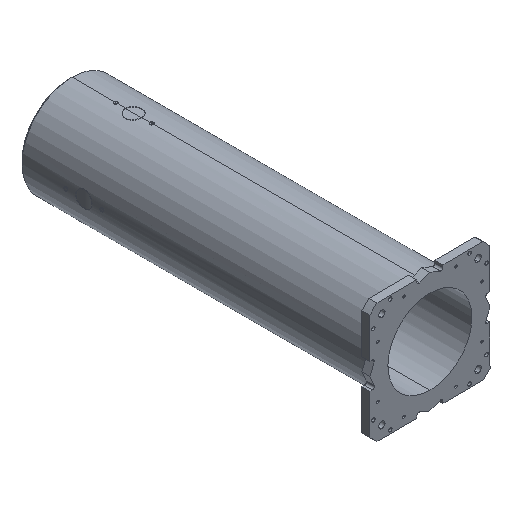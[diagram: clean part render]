
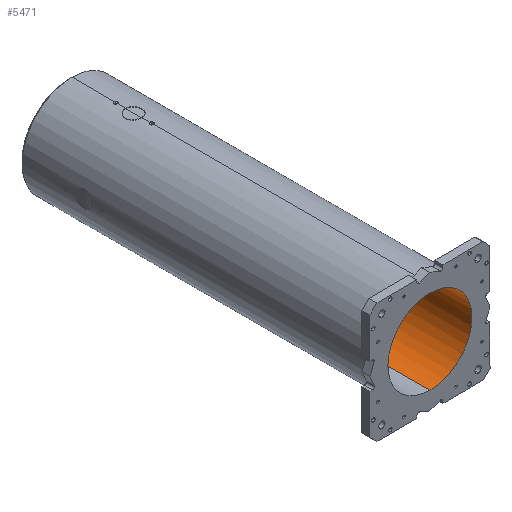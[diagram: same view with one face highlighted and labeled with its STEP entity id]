
A CAD part, isometric view. The second image highlights one B-rep face of the part: STEP entity #5471.
In plain terms, the highlighted cylindrical face has radius 105 mm (diameter 210 mm), a partial arc.
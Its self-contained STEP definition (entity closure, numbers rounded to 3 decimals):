
#7 = VERTEX_POINT ( 'NONE', #14194 ) ;
#49 = CIRCLE ( 'NONE', #4785, 105. ) ;
#255 = CARTESIAN_POINT ( 'NONE',  ( 0., 882., 0. ) ) ;
#354 = EDGE_CURVE ( 'NONE', #7, #5901, #369, .T. ) ;
#369 = CIRCLE ( 'NONE', #15688, 105. ) ;
#378 = DIRECTION ( 'NONE',  ( 0., 1., 0. ) ) ;
#693 = VECTOR ( 'NONE', #6294, 1000. ) ;
#1153 = CARTESIAN_POINT ( 'NONE',  ( 0., 0., 0. ) ) ;
#1182 = AXIS2_PLACEMENT_3D ( 'NONE', #255, #3972, #15222 ) ;
#1238 = DIRECTION ( 'NONE',  ( 0., 1., 0. ) ) ;
#1327 = ORIENTED_EDGE ( 'NONE', *, *, #3336, .T. ) ;
#1395 = DIRECTION ( 'NONE',  ( 0., 1., 0. ) ) ;
#1400 = CIRCLE ( 'NONE', #14872, 105. ) ;
#1470 = ORIENTED_EDGE ( 'NONE', *, *, #6699, .T. ) ;
#1477 = CARTESIAN_POINT ( 'NONE',  ( 71.94, 882., -76.483 ) ) ;
#1581 = AXIS2_PLACEMENT_3D ( 'NONE', #2534, #14025, #6394 ) ;
#1610 = CARTESIAN_POINT ( 'NONE',  ( 0., 882., 0. ) ) ;
#1723 = EDGE_LOOP ( 'NONE', ( #10838, #8387, #10303, #4356, #1470, #1327, #6968, #5443, #15554, #14204, #3822, #6969 ) ) ;
#2033 = CARTESIAN_POINT ( 'NONE',  ( 76.483, 882., 71.94 ) ) ;
#2534 = CARTESIAN_POINT ( 'NONE',  ( 0., 882., 0. ) ) ;
#2574 = CARTESIAN_POINT ( 'NONE',  ( 0., 0., -105. ) ) ;
#2854 = DIRECTION ( 'NONE',  ( 0., 1., 0. ) ) ;
#2875 = EDGE_CURVE ( 'NONE', #8486, #5762, #12626, .T. ) ;
#3157 = EDGE_CURVE ( 'NONE', #6537, #15801, #13925, .T. ) ;
#3336 = EDGE_CURVE ( 'NONE', #15551, #7, #14902, .T. ) ;
#3564 = CARTESIAN_POINT ( 'NONE',  ( 0., 882., 0. ) ) ;
#3759 = EDGE_CURVE ( 'NONE', #15532, #5762, #7517, .T. ) ;
#3782 = EDGE_CURVE ( 'NONE', #11283, #9463, #11177, .T. ) ;
#3822 = ORIENTED_EDGE ( 'NONE', *, *, #9217, .T. ) ;
#3879 = DIRECTION ( 'NONE',  ( 0., 0., 1. ) ) ;
#3972 = DIRECTION ( 'NONE',  ( 0., 1., 0. ) ) ;
#4295 = CARTESIAN_POINT ( 'NONE',  ( 0., 882., 0. ) ) ;
#4356 = ORIENTED_EDGE ( 'NONE', *, *, #10529, .T. ) ;
#4759 = AXIS2_PLACEMENT_3D ( 'NONE', #1153, #1395, #8816 ) ;
#4785 = AXIS2_PLACEMENT_3D ( 'NONE', #10360, #378, #7873 ) ;
#5252 = CIRCLE ( 'NONE', #14526, 105. ) ;
#5334 = VERTEX_POINT ( 'NONE', #13334 ) ;
#5365 = DIRECTION ( 'NONE',  ( 0., 0., 1. ) ) ;
#5443 = ORIENTED_EDGE ( 'NONE', *, *, #13720, .T. ) ;
#5471 = ADVANCED_FACE ( 'NONE', ( #5931 ), #12879, .F. ) ;
#5576 = AXIS2_PLACEMENT_3D ( 'NONE', #9333, #11827, #5365 ) ;
#5762 = VERTEX_POINT ( 'NONE', #12367 ) ;
#5800 = DIRECTION ( 'NONE',  ( 0., 0., 1. ) ) ;
#5901 = VERTEX_POINT ( 'NONE', #15706 ) ;
#5931 = FACE_OUTER_BOUND ( 'NONE', #1723, .T. ) ;
#5947 = DIRECTION ( 'NONE',  ( 0., 1., 0. ) ) ;
#6294 = DIRECTION ( 'NONE',  ( 0., 1., 0. ) ) ;
#6394 = DIRECTION ( 'NONE',  ( 0., 0., 1. ) ) ;
#6537 = VERTEX_POINT ( 'NONE', #14906 ) ;
#6699 = EDGE_CURVE ( 'NONE', #5334, #15551, #11373, .T. ) ;
#6725 = VECTOR ( 'NONE', #15475, 1000. ) ;
#6968 = ORIENTED_EDGE ( 'NONE', *, *, #354, .T. ) ;
#6969 = ORIENTED_EDGE ( 'NONE', *, *, #2875, .T. ) ;
#7190 = CARTESIAN_POINT ( 'NONE',  ( 76.483, 882., -71.94 ) ) ;
#7338 = CARTESIAN_POINT ( 'NONE',  ( 0., 882., 0. ) ) ;
#7344 = DIRECTION ( 'NONE',  ( 0., 1., 0. ) ) ;
#7517 = LINE ( 'NONE', #2574, #6725 ) ;
#7656 = CIRCLE ( 'NONE', #4759, 105. ) ;
#7662 = DIRECTION ( 'NONE',  ( 0., 1., 0. ) ) ;
#7768 = DIRECTION ( 'NONE',  ( 0., 1., 0. ) ) ;
#7772 = EDGE_CURVE ( 'NONE', #6537, #15532, #7656, .T. ) ;
#7873 = DIRECTION ( 'NONE',  ( 0., 0., 1. ) ) ;
#7905 = CIRCLE ( 'NONE', #1581, 105. ) ;
#8387 = ORIENTED_EDGE ( 'NONE', *, *, #7772, .F. ) ;
#8486 = VERTEX_POINT ( 'NONE', #1477 ) ;
#8784 = CARTESIAN_POINT ( 'NONE',  ( 0., 0., 105. ) ) ;
#8816 = DIRECTION ( 'NONE',  ( 0., 0., 1. ) ) ;
#9140 = AXIS2_PLACEMENT_3D ( 'NONE', #10486, #7662, #3879 ) ;
#9217 = EDGE_CURVE ( 'NONE', #9463, #8486, #49, .T. ) ;
#9333 = CARTESIAN_POINT ( 'NONE',  ( 0., 882., 0. ) ) ;
#9463 = VERTEX_POINT ( 'NONE', #7190 ) ;
#10027 = CARTESIAN_POINT ( 'NONE',  ( 0., 0., -105. ) ) ;
#10303 = ORIENTED_EDGE ( 'NONE', *, *, #3157, .T. ) ;
#10360 = CARTESIAN_POINT ( 'NONE',  ( 0., 882., 0. ) ) ;
#10486 = CARTESIAN_POINT ( 'NONE',  ( 0., 0., 0. ) ) ;
#10529 = EDGE_CURVE ( 'NONE', #15801, #5334, #1400, .T. ) ;
#10610 = CARTESIAN_POINT ( 'NONE',  ( 71.94, 882., 76.483 ) ) ;
#10838 = ORIENTED_EDGE ( 'NONE', *, *, #3759, .F. ) ;
#11144 = DIRECTION ( 'NONE',  ( 0., 0., 1. ) ) ;
#11177 = CIRCLE ( 'NONE', #1182, 105. ) ;
#11283 = VERTEX_POINT ( 'NONE', #2033 ) ;
#11373 = CIRCLE ( 'NONE', #5576, 105. ) ;
#11827 = DIRECTION ( 'NONE',  ( 0., 1., 0. ) ) ;
#12367 = CARTESIAN_POINT ( 'NONE',  ( 0., 882., -105. ) ) ;
#12626 = CIRCLE ( 'NONE', #15289, 105. ) ;
#12879 = CYLINDRICAL_SURFACE ( 'NONE', #9140, 105. ) ;
#13018 = DIRECTION ( 'NONE',  ( 0., 0., 1. ) ) ;
#13326 = AXIS2_PLACEMENT_3D ( 'NONE', #1610, #2854, #13018 ) ;
#13334 = CARTESIAN_POINT ( 'NONE',  ( 57.845, 882., 87.63 ) ) ;
#13506 = CARTESIAN_POINT ( 'NONE',  ( 0., 882., 105. ) ) ;
#13720 = EDGE_CURVE ( 'NONE', #5901, #15638, #5252, .T. ) ;
#13766 = EDGE_CURVE ( 'NONE', #15638, #11283, #7905, .T. ) ;
#13925 = LINE ( 'NONE', #8784, #693 ) ;
#14025 = DIRECTION ( 'NONE',  ( 0., 1., 0. ) ) ;
#14194 = CARTESIAN_POINT ( 'NONE',  ( 65.645, 882., 81.95 ) ) ;
#14204 = ORIENTED_EDGE ( 'NONE', *, *, #3782, .T. ) ;
#14526 = AXIS2_PLACEMENT_3D ( 'NONE', #7338, #1238, #16367 ) ;
#14852 = CARTESIAN_POINT ( 'NONE',  ( 63.2, 882., 83.85 ) ) ;
#14872 = AXIS2_PLACEMENT_3D ( 'NONE', #3564, #7344, #11144 ) ;
#14902 = CIRCLE ( 'NONE', #13326, 105. ) ;
#14906 = CARTESIAN_POINT ( 'NONE',  ( 0., 0., 105. ) ) ;
#15222 = DIRECTION ( 'NONE',  ( 0., 0., 1. ) ) ;
#15289 = AXIS2_PLACEMENT_3D ( 'NONE', #4295, #7768, #15553 ) ;
#15475 = DIRECTION ( 'NONE',  ( 0., 1., 0. ) ) ;
#15532 = VERTEX_POINT ( 'NONE', #10027 ) ;
#15551 = VERTEX_POINT ( 'NONE', #14852 ) ;
#15553 = DIRECTION ( 'NONE',  ( 0., 0., 1. ) ) ;
#15554 = ORIENTED_EDGE ( 'NONE', *, *, #13766, .T. ) ;
#15638 = VERTEX_POINT ( 'NONE', #10610 ) ;
#15688 = AXIS2_PLACEMENT_3D ( 'NONE', #16077, #5947, #5800 ) ;
#15706 = CARTESIAN_POINT ( 'NONE',  ( 69.052, 882., 79.1 ) ) ;
#15801 = VERTEX_POINT ( 'NONE', #13506 ) ;
#16077 = CARTESIAN_POINT ( 'NONE',  ( 0., 882., 0. ) ) ;
#16367 = DIRECTION ( 'NONE',  ( 0., 0., 1. ) ) ;
